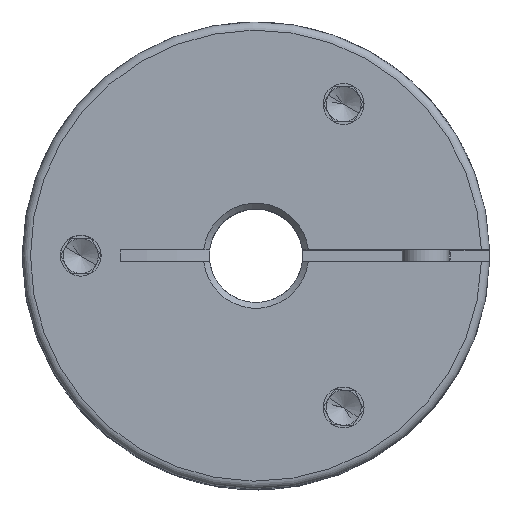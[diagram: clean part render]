
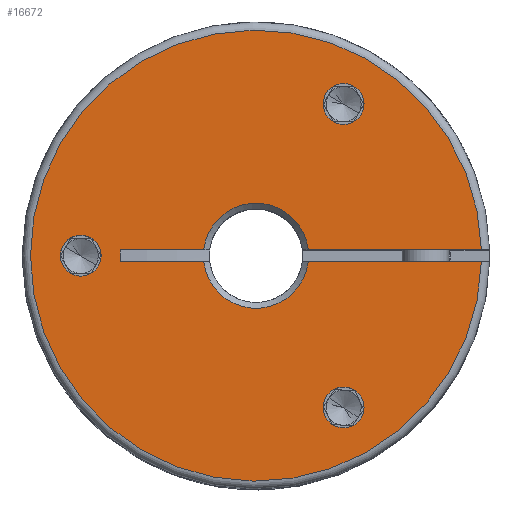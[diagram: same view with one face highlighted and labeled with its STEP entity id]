
A CAD part, top view. The second image highlights one B-rep face of the part: STEP entity #16672.
In plain terms, the highlighted planar face has unit normal (0, 0, 1).
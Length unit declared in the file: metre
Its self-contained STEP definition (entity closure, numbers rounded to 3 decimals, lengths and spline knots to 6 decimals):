
#16 = ORIENTED_EDGE ( 'NONE', *, *, #16808, .F. ) ;
#45 = CIRCLE ( 'NONE', #3719, 0.00175 ) ;
#306 = EDGE_CURVE ( 'NONE', #14460, #5856, #6571, .T. ) ;
#312 = ORIENTED_EDGE ( 'NONE', *, *, #14265, .T. ) ;
#428 = CARTESIAN_POINT ( 'NONE',  ( -0.011615, 0.0005, 0.0095 ) ) ;
#537 = DIRECTION ( 'NONE',  ( 1., 0., 0. ) ) ;
#694 = FACE_OUTER_BOUND ( 'NONE', #12400, .T. ) ;
#709 = DIRECTION ( 'NONE',  ( 0., 0., 1. ) ) ;
#711 = DIRECTION ( 'NONE',  ( 1., 0., 0. ) ) ;
#742 = EDGE_CURVE ( 'NONE', #8878, #7713, #11989, .T. ) ;
#811 = DIRECTION ( 'NONE',  ( 0., 0., 1. ) ) ;
#901 = AXIS2_PLACEMENT_3D ( 'NONE', #10554, #7803, #7632 ) ;
#905 = FACE_BOUND ( 'NONE', #6866, .T. ) ;
#1004 = CARTESIAN_POINT ( 'NONE',  ( 0., 0., 0.0095 ) ) ;
#1017 = ORIENTED_EDGE ( 'NONE', *, *, #13692, .T. ) ;
#1090 = VERTEX_POINT ( 'NONE', #13888 ) ;
#1159 = CIRCLE ( 'NONE', #11471, 0.00175 ) ;
#1231 = CIRCLE ( 'NONE', #6226, 0.00175 ) ;
#1238 = AXIS2_PLACEMENT_3D ( 'NONE', #11275, #14067, #1665 ) ;
#1340 = EDGE_CURVE ( 'NONE', #10034, #13475, #9789, .T. ) ;
#1665 = DIRECTION ( 'NONE',  ( 1., 0., 0. ) ) ;
#1766 = DIRECTION ( 'NONE',  ( 0., 0., 1. ) ) ;
#1825 = CARTESIAN_POINT ( 'NONE',  ( 0.00575, -0.01299, 0.0095 ) ) ;
#1881 = AXIS2_PLACEMENT_3D ( 'NONE', #16038, #16150, #14683 ) ;
#2206 = FACE_BOUND ( 'NONE', #6598, .T. ) ;
#2276 = CARTESIAN_POINT ( 'NONE',  ( -0.015, 0., 0.0095 ) ) ;
#2861 = CARTESIAN_POINT ( 'NONE',  ( -0.011615, -0.0005, 0.0095 ) ) ;
#3030 = LINE ( 'NONE', #6138, #17335 ) ;
#3197 = PLANE ( 'NONE',  #8215 ) ;
#3438 = CARTESIAN_POINT ( 'NONE',  ( 0.0075, -0.01299, 0.0095 ) ) ;
#3588 = EDGE_CURVE ( 'NONE', #7713, #8878, #7136, .T. ) ;
#3626 = DIRECTION ( 'NONE',  ( 0., 0., 1. ) ) ;
#3719 = AXIS2_PLACEMENT_3D ( 'NONE', #2276, #3626, #711 ) ;
#4132 = ORIENTED_EDGE ( 'NONE', *, *, #3588, .F. ) ;
#4207 = CARTESIAN_POINT ( 'NONE',  ( 0.004472, 0.0005, 0.0095 ) ) ;
#4543 = CARTESIAN_POINT ( 'NONE',  ( 0., 0., 0.0095 ) ) ;
#4684 = CIRCLE ( 'NONE', #16085, 0.0045 ) ;
#4820 = VERTEX_POINT ( 'NONE', #8540 ) ;
#5128 = CIRCLE ( 'NONE', #901, 0.0193 ) ;
#5143 = VECTOR ( 'NONE', #16829, 1. ) ;
#5408 = EDGE_CURVE ( 'NONE', #4820, #13475, #17911, .T. ) ;
#5597 = CARTESIAN_POINT ( 'NONE',  ( -0.004472, 0.0005, 0.0095 ) ) ;
#5774 = ORIENTED_EDGE ( 'NONE', *, *, #5930, .F. ) ;
#5803 = CARTESIAN_POINT ( 'NONE',  ( 0.00575, 0.01299, 0.0095 ) ) ;
#5856 = VERTEX_POINT ( 'NONE', #4207 ) ;
#5930 = EDGE_CURVE ( 'NONE', #14460, #10034, #17681, .T. ) ;
#6067 = AXIS2_PLACEMENT_3D ( 'NONE', #6379, #811, #10496 ) ;
#6138 = CARTESIAN_POINT ( 'NONE',  ( 0., -0.0005, 0.0095 ) ) ;
#6208 = ORIENTED_EDGE ( 'NONE', *, *, #1340, .F. ) ;
#6226 = AXIS2_PLACEMENT_3D ( 'NONE', #15750, #17134, #14287 ) ;
#6379 = CARTESIAN_POINT ( 'NONE',  ( 0.0075, -0.01299, 0.0095 ) ) ;
#6393 = CIRCLE ( 'NONE', #1238, 0.00175 ) ;
#6571 = CIRCLE ( 'NONE', #1881, 0.0045 ) ;
#6598 = EDGE_LOOP ( 'NONE', ( #4132, #6674 ) ) ;
#6674 = ORIENTED_EDGE ( 'NONE', *, *, #742, .F. ) ;
#6688 = EDGE_CURVE ( 'NONE', #7230, #8920, #6393, .T. ) ;
#6829 = ORIENTED_EDGE ( 'NONE', *, *, #17280, .T. ) ;
#6856 = VECTOR ( 'NONE', #15341, 1. ) ;
#6866 = EDGE_LOOP ( 'NONE', ( #16562, #8129 ) ) ;
#7113 = ORIENTED_EDGE ( 'NONE', *, *, #5408, .T. ) ;
#7136 = CIRCLE ( 'NONE', #6067, 0.00175 ) ;
#7179 = ORIENTED_EDGE ( 'NONE', *, *, #306, .T. ) ;
#7230 = VERTEX_POINT ( 'NONE', #12031 ) ;
#7632 = DIRECTION ( 'NONE',  ( 1., 0., 0. ) ) ;
#7713 = VERTEX_POINT ( 'NONE', #12228 ) ;
#7778 = CARTESIAN_POINT ( 'NONE',  ( 0.004472, -0.0005, 0.0095 ) ) ;
#7803 = DIRECTION ( 'NONE',  ( 0., 0., 1. ) ) ;
#7979 = EDGE_CURVE ( 'NONE', #9522, #13555, #1159, .T. ) ;
#8059 = EDGE_CURVE ( 'NONE', #13555, #9522, #45, .T. ) ;
#8129 = ORIENTED_EDGE ( 'NONE', *, *, #13552, .F. ) ;
#8215 = AXIS2_PLACEMENT_3D ( 'NONE', #4543, #14200, #8815 ) ;
#8444 = LINE ( 'NONE', #10402, #16688 ) ;
#8540 = CARTESIAN_POINT ( 'NONE',  ( -0.004472, -0.0005, 0.0095 ) ) ;
#8815 = DIRECTION ( 'NONE',  ( 1., 0., 0. ) ) ;
#8878 = VERTEX_POINT ( 'NONE', #1825 ) ;
#8920 = VERTEX_POINT ( 'NONE', #5803 ) ;
#9080 = VERTEX_POINT ( 'NONE', #7778 ) ;
#9381 = DIRECTION ( 'NONE',  ( 1., 0., 0. ) ) ;
#9522 = VERTEX_POINT ( 'NONE', #11412 ) ;
#9586 = VECTOR ( 'NONE', #14888, 1. ) ;
#9789 = LINE ( 'NONE', #15011, #9586 ) ;
#10023 = CARTESIAN_POINT ( 'NONE',  ( -0.015, 0., 0.0095 ) ) ;
#10034 = VERTEX_POINT ( 'NONE', #428 ) ;
#10181 = DIRECTION ( 'NONE',  ( -1., 0., 0. ) ) ;
#10402 = CARTESIAN_POINT ( 'NONE',  ( 0., 0.0005, 0.0095 ) ) ;
#10496 = DIRECTION ( 'NONE',  ( 1., 0., 0. ) ) ;
#10554 = CARTESIAN_POINT ( 'NONE',  ( 0., 0., 0.0095 ) ) ;
#11275 = CARTESIAN_POINT ( 'NONE',  ( 0.0075, 0.01299, 0.0095 ) ) ;
#11412 = CARTESIAN_POINT ( 'NONE',  ( -0.01675, 0., 0.0095 ) ) ;
#11471 = AXIS2_PLACEMENT_3D ( 'NONE', #10023, #1766, #537 ) ;
#11850 = DIRECTION ( 'NONE',  ( -1., 0., 0. ) ) ;
#11866 = VERTEX_POINT ( 'NONE', #16952 ) ;
#11989 = CIRCLE ( 'NONE', #14876, 0.00175 ) ;
#12031 = CARTESIAN_POINT ( 'NONE',  ( 0.00925, 0.01299, 0.0095 ) ) ;
#12228 = CARTESIAN_POINT ( 'NONE',  ( 0.00925, -0.01299, 0.0095 ) ) ;
#12353 = ORIENTED_EDGE ( 'NONE', *, *, #8059, .F. ) ;
#12400 = EDGE_LOOP ( 'NONE', ( #1017, #6829, #312, #7113, #6208, #5774, #7179, #16 ) ) ;
#13400 = EDGE_LOOP ( 'NONE', ( #12353, #15089 ) ) ;
#13475 = VERTEX_POINT ( 'NONE', #2861 ) ;
#13552 = EDGE_CURVE ( 'NONE', #8920, #7230, #1231, .T. ) ;
#13555 = VERTEX_POINT ( 'NONE', #14472 ) ;
#13653 = DIRECTION ( 'NONE',  ( 1., 0., 0. ) ) ;
#13692 = EDGE_CURVE ( 'NONE', #1090, #11866, #5128, .T. ) ;
#13888 = CARTESIAN_POINT ( 'NONE',  ( 0.019294, 0.0005, 0.0095 ) ) ;
#14067 = DIRECTION ( 'NONE',  ( 0., 0., 1. ) ) ;
#14200 = DIRECTION ( 'NONE',  ( 0., 0., 1. ) ) ;
#14265 = EDGE_CURVE ( 'NONE', #9080, #4820, #4684, .T. ) ;
#14287 = DIRECTION ( 'NONE',  ( 1., 0., 0. ) ) ;
#14460 = VERTEX_POINT ( 'NONE', #5597 ) ;
#14472 = CARTESIAN_POINT ( 'NONE',  ( -0.01325, 0., 0.0095 ) ) ;
#14683 = DIRECTION ( 'NONE',  ( 1., 0., 0. ) ) ;
#14876 = AXIS2_PLACEMENT_3D ( 'NONE', #3438, #709, #9381 ) ;
#14888 = DIRECTION ( 'NONE',  ( 0., -1., 0. ) ) ;
#15011 = CARTESIAN_POINT ( 'NONE',  ( -0.011615, -0.0005, 0.0095 ) ) ;
#15089 = ORIENTED_EDGE ( 'NONE', *, *, #7979, .F. ) ;
#15341 = DIRECTION ( 'NONE',  ( -1., 0., 0. ) ) ;
#15750 = CARTESIAN_POINT ( 'NONE',  ( 0.0075, 0.01299, 0.0095 ) ) ;
#16038 = CARTESIAN_POINT ( 'NONE',  ( 0., 0., 0.0095 ) ) ;
#16085 = AXIS2_PLACEMENT_3D ( 'NONE', #1004, #17887, #13653 ) ;
#16150 = DIRECTION ( 'NONE',  ( 0., 0., -1. ) ) ;
#16562 = ORIENTED_EDGE ( 'NONE', *, *, #6688, .F. ) ;
#16672 = ADVANCED_FACE ( 'NONE', ( #17372, #905, #2206, #694 ), #3197, .T. ) ;
#16688 = VECTOR ( 'NONE', #11850, 1. ) ;
#16808 = EDGE_CURVE ( 'NONE', #1090, #5856, #8444, .T. ) ;
#16829 = DIRECTION ( 'NONE',  ( -1., 0., 0. ) ) ;
#16908 = CARTESIAN_POINT ( 'NONE',  ( 0., -0.0005, 0.0095 ) ) ;
#16951 = CARTESIAN_POINT ( 'NONE',  ( 0., 0.0005, 0.0095 ) ) ;
#16952 = CARTESIAN_POINT ( 'NONE',  ( 0.019294, -0.0005, 0.0095 ) ) ;
#17134 = DIRECTION ( 'NONE',  ( 0., 0., 1. ) ) ;
#17280 = EDGE_CURVE ( 'NONE', #11866, #9080, #3030, .T. ) ;
#17335 = VECTOR ( 'NONE', #10181, 1. ) ;
#17372 = FACE_BOUND ( 'NONE', #13400, .T. ) ;
#17681 = LINE ( 'NONE', #16951, #5143 ) ;
#17887 = DIRECTION ( 'NONE',  ( 0., 0., -1. ) ) ;
#17911 = LINE ( 'NONE', #16908, #6856 ) ;
